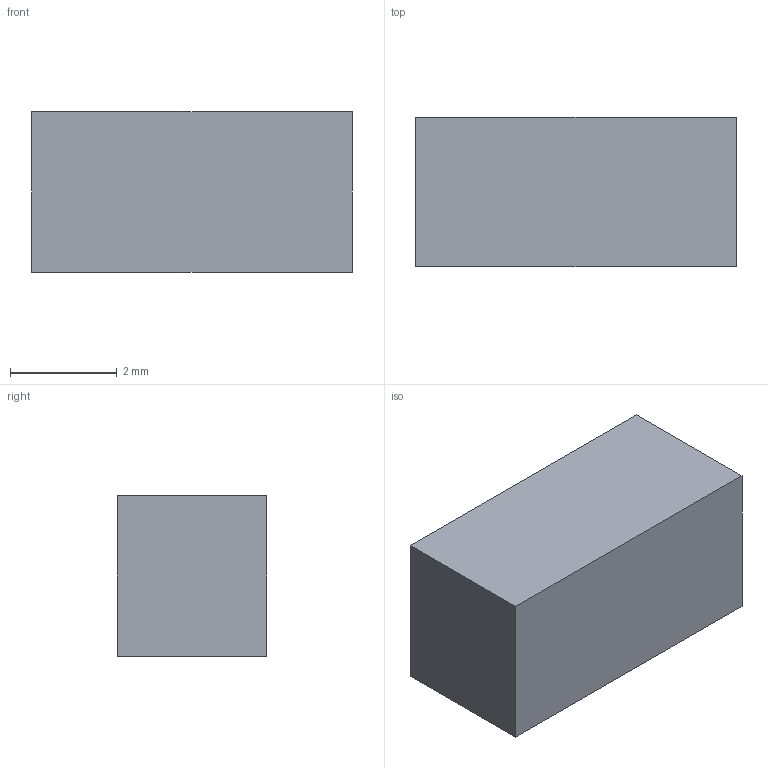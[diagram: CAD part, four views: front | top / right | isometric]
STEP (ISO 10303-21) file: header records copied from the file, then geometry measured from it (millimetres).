
FILE_DESCRIPTION(('Open CASCADE Model'),'2;1');
FILE_NAME('mic_foam_strip_3_0to2_8_1','2026-09-08T13:43:18',('Author'),( 'Open CASCADE'),'Open CASCADE STEP processor 7.8','build123d', 'Unknown');
FILE_SCHEMA(('AUTOMOTIVE_DESIGN { 1 0 10303 214 1 1 1 1 }'));
Length unit declared in the file: millimetre
Products named in the file (3): =>[0:1:1:2]; mic_foam_strip_3_0to2_8_1; SOLID
Assembly tree (2 placements, depth 3):
  =>[0:1:1:2]
    mic_foam_strip_3_0to2_8_1
      SOLID
Bounding box: 6 x 2.8 x 3 mm (x, y, z)
Volume: 50.4 mm3; surface area: 86.4 mm2
Topology: 1 solids, 1 shells, 6 faces, 12 edges, 8 vertices
Faces by surface type: plane 6
Entity records: 358 total; most frequent: DIRECTION 54, CARTESIAN_POINT 53, LINE 36, VECTOR 36, ORIENTED_EDGE 24, PCURVE 24, DEFINITIONAL_REPRESENTATION 24, EDGE_CURVE 12
